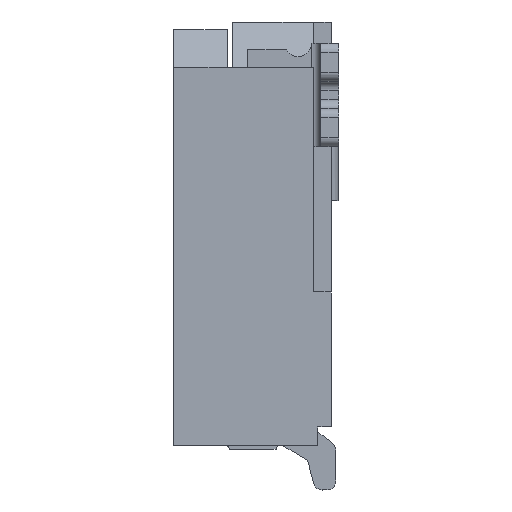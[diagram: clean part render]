
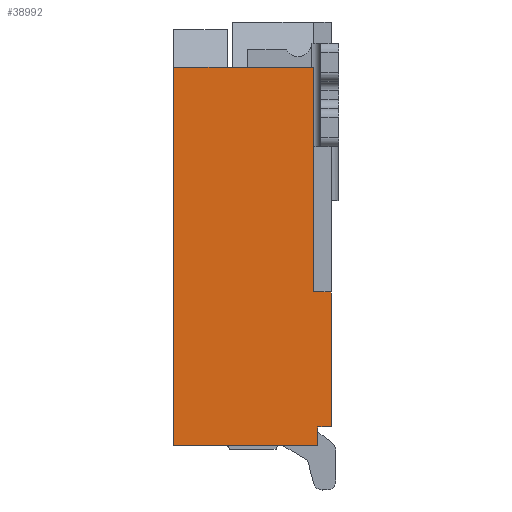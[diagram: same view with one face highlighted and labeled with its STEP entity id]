
A CAD part, left-side view. The second image highlights one B-rep face of the part: STEP entity #38992.
In plain terms, the highlighted planar face has unit normal (-1, 0, 0).
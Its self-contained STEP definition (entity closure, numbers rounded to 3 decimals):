
#6213=DIRECTION('',(0.,1.,0.));
#6214=VECTOR('',#6213,1.6);
#6215=CARTESIAN_POINT('',(-12.15,-0.725,-1.85));
#6216=LINE('',#6215,#6214);
#6217=DIRECTION('',(0.,0.,1.));
#6218=VECTOR('',#6217,4.2);
#6219=CARTESIAN_POINT('',(-12.15,0.875,-1.85));
#6220=LINE('',#6219,#6218);
#6221=DIRECTION('',(0.,-1.,0.));
#6222=VECTOR('',#6221,1.55);
#6223=CARTESIAN_POINT('',(-12.15,0.875,2.35));
#6224=LINE('',#6223,#6222);
#6225=DIRECTION('',(0.,0.,-1.));
#6226=VECTOR('',#6225,2.5);
#6227=CARTESIAN_POINT('',(-12.15,-0.675,2.35));
#6228=LINE('',#6227,#6226);
#6229=DIRECTION('',(0.,-1.,0.));
#6230=VECTOR('',#6229,0.2);
#6231=CARTESIAN_POINT('',(-12.15,-0.675,-0.15));
#6232=LINE('',#6231,#6230);
#6233=DIRECTION('',(0.,1.,0.));
#6234=VECTOR('',#6233,0.15);
#6235=CARTESIAN_POINT('',(-12.15,-0.875,-1.65));
#6236=LINE('',#6235,#6234);
#6237=DIRECTION('',(0.,0.,-1.));
#6238=VECTOR('',#6237,0.2);
#6239=CARTESIAN_POINT('',(-12.15,-0.725,-1.65));
#6240=LINE('',#6239,#6238);
#15857=DIRECTION('',(0.,0.,1.));
#15858=VECTOR('',#15857,1.5);
#15859=CARTESIAN_POINT('',(-12.15,-0.875,-1.65));
#15860=LINE('',#15859,#15858);
#23743=CARTESIAN_POINT('',(-12.15,0.875,2.35));
#23744=VERTEX_POINT('',#23743);
#23745=CARTESIAN_POINT('',(-12.15,0.875,-1.85));
#23746=VERTEX_POINT('',#23745);
#25817=CARTESIAN_POINT('',(-12.15,-0.875,-1.65));
#25819=VERTEX_POINT('',#25817);
#25821=CARTESIAN_POINT('',(-12.15,-0.875,-0.15));
#25822=VERTEX_POINT('',#25821);
#25825=CARTESIAN_POINT('',(-12.15,-0.725,-1.65));
#25827=VERTEX_POINT('',#25825);
#25991=CARTESIAN_POINT('',(-12.15,-0.725,-1.85));
#25992=VERTEX_POINT('',#25991);
#26489=CARTESIAN_POINT('',(-12.15,-0.675,2.35));
#26490=VERTEX_POINT('',#26489);
#26491=CARTESIAN_POINT('',(-12.15,-0.675,-0.15));
#26492=VERTEX_POINT('',#26491);
#38971=CARTESIAN_POINT('',(-12.15,0.875,-4.968));
#38972=DIRECTION('',(-1.,0.,0.));
#38973=DIRECTION('',(0.,0.,1.));
#38974=AXIS2_PLACEMENT_3D('',#38971,#38972,#38973);
#38975=PLANE('',#38974);
#38976=ORIENTED_EDGE('',*,*,#38463,.T.);
#38977=ORIENTED_EDGE('',*,*,#31320,.T.);
#38979=ORIENTED_EDGE('',*,*,#38978,.T.);
#38981=ORIENTED_EDGE('',*,*,#38980,.T.);
#38983=ORIENTED_EDGE('',*,*,#38982,.T.);
#38985=ORIENTED_EDGE('',*,*,#38984,.F.);
#38987=ORIENTED_EDGE('',*,*,#38986,.T.);
#38989=ORIENTED_EDGE('',*,*,#38988,.T.);
#38990=EDGE_LOOP('',(#38976,#38977,#38979,#38981,#38983,#38985,#38987,#38989));
#38991=FACE_OUTER_BOUND('',#38990,.F.);
#31320=EDGE_CURVE('',#23746,#23744,#6220,.T.);
#38463=EDGE_CURVE('',#25992,#23746,#6216,.T.);
#38978=EDGE_CURVE('',#23744,#26490,#6224,.T.);
#38980=EDGE_CURVE('',#26490,#26492,#6228,.T.);
#38982=EDGE_CURVE('',#26492,#25822,#6232,.T.);
#38984=EDGE_CURVE('',#25819,#25822,#15860,.T.);
#38986=EDGE_CURVE('',#25819,#25827,#6236,.T.);
#38988=EDGE_CURVE('',#25827,#25992,#6240,.T.);
#38992=ADVANCED_FACE('',(#38991),#38975,.T.);
